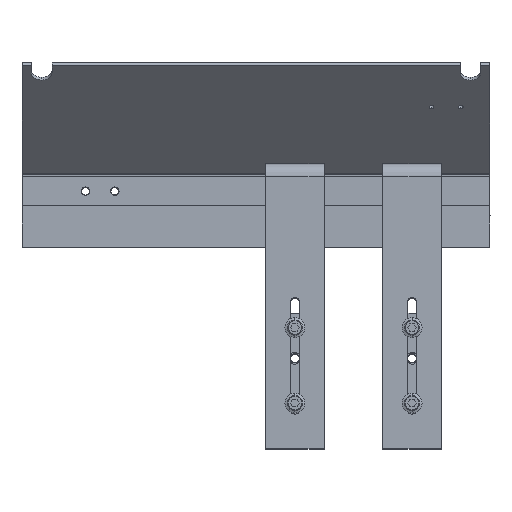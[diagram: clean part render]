
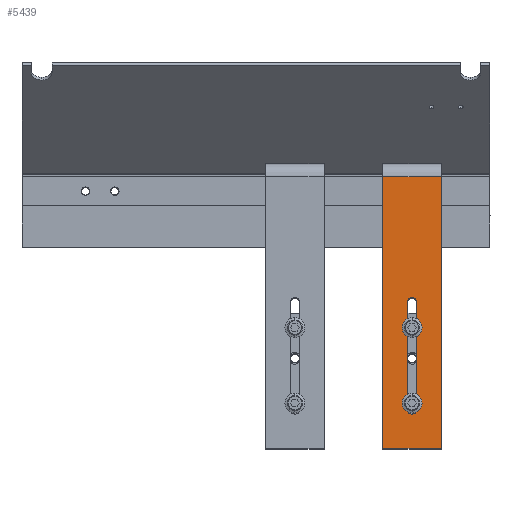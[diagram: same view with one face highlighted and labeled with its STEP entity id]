
A CAD part, top view. The second image highlights one B-rep face of the part: STEP entity #5439.
In plain terms, the highlighted planar face has unit normal (0, 0, 1).
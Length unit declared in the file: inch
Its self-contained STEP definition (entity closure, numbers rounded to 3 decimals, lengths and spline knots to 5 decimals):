
#204 = DIRECTION ( 'NONE',  ( 1., 0., 0. ) ) ;
#275 = AXIS2_PLACEMENT_3D ( 'NONE', #755, #3397, #3487 ) ;
#315 = CARTESIAN_POINT ( 'NONE',  ( 0.75, -3.651, 1.402 ) ) ;
#353 = ORIENTED_EDGE ( 'NONE', *, *, #6400, .T. ) ;
#507 = ORIENTED_EDGE ( 'NONE', *, *, #1146, .T. ) ;
#592 = VECTOR ( 'NONE', #3039, 39.37008 ) ;
#601 = CARTESIAN_POINT ( 'NONE',  ( 0.125, 0.091, 1.402 ) ) ;
#755 = CARTESIAN_POINT ( 'NONE',  ( 0., -2.651, 1.402 ) ) ;
#779 = ORIENTED_EDGE ( 'NONE', *, *, #5688, .T. ) ;
#785 = CARTESIAN_POINT ( 'NONE',  ( 0.75, -3.651, 1.402 ) ) ;
#829 = ORIENTED_EDGE ( 'NONE', *, *, #4669, .T. ) ;
#921 = DIRECTION ( 'NONE',  ( -1., 0., 0. ) ) ;
#1029 = VECTOR ( 'NONE', #4605, 39.37008 ) ;
#1146 = EDGE_CURVE ( 'NONE', #2212, #7460, #7964, .T. ) ;
#1463 = DIRECTION ( 'NONE',  ( -1., 0., 0. ) ) ;
#1506 = VECTOR ( 'NONE', #921, 39.37008 ) ;
#1724 = LINE ( 'NONE', #2355, #1506 ) ;
#1748 = CARTESIAN_POINT ( 'NONE',  ( -0.75, 3.311, 1.402 ) ) ;
#1887 = CARTESIAN_POINT ( 'NONE',  ( -0.125, 0.091, 1.402 ) ) ;
#2128 = CIRCLE ( 'NONE', #275, 0.125 ) ;
#2212 = VERTEX_POINT ( 'NONE', #3048 ) ;
#2267 = LINE ( 'NONE', #3066, #3087 ) ;
#2355 = CARTESIAN_POINT ( 'NONE',  ( 0.75, 3.311, 1.402 ) ) ;
#2829 = EDGE_CURVE ( 'NONE', #8301, #2833, #6879, .T. ) ;
#2833 = VERTEX_POINT ( 'NONE', #6213 ) ;
#2900 = DIRECTION ( 'NONE',  ( 0., 1., 0. ) ) ;
#2939 = PLANE ( 'NONE',  #7303 ) ;
#3001 = CARTESIAN_POINT ( 'NONE',  ( 0.75, -3.651, 1.402 ) ) ;
#3039 = DIRECTION ( 'NONE',  ( -1., 0., 0. ) ) ;
#3048 = CARTESIAN_POINT ( 'NONE',  ( -0.125, -2.651, 1.402 ) ) ;
#3066 = CARTESIAN_POINT ( 'NONE',  ( -0.75, -3.651, 1.402 ) ) ;
#3087 = VECTOR ( 'NONE', #2900, 39.37008 ) ;
#3354 = CIRCLE ( 'NONE', #3496, 0.125 ) ;
#3397 = DIRECTION ( 'NONE',  ( 0., 0., -1. ) ) ;
#3487 = DIRECTION ( 'NONE',  ( -1., 0., 0. ) ) ;
#3496 = AXIS2_PLACEMENT_3D ( 'NONE', #5986, #7370, #1463 ) ;
#3824 = CARTESIAN_POINT ( 'NONE',  ( 0.75, -3.651, 1.402 ) ) ;
#4008 = CARTESIAN_POINT ( 'NONE',  ( 0.125, -2.651, 1.402 ) ) ;
#4399 = EDGE_CURVE ( 'NONE', #5548, #7663, #1724, .T. ) ;
#4605 = DIRECTION ( 'NONE',  ( 0., 1., 0. ) ) ;
#4669 = EDGE_CURVE ( 'NONE', #7460, #7037, #3354, .T. ) ;
#4822 = VECTOR ( 'NONE', #5067, 39.37008 ) ;
#5025 = FACE_OUTER_BOUND ( 'NONE', #7209, .T. ) ;
#5067 = DIRECTION ( 'NONE',  ( 0., 1., 0. ) ) ;
#5233 = LINE ( 'NONE', #3824, #4822 ) ;
#5272 = VERTEX_POINT ( 'NONE', #4008 ) ;
#5439 = ADVANCED_FACE ( 'NONE', ( #8244, #5025 ), #2939, .T. ) ;
#5474 = CARTESIAN_POINT ( 'NONE',  ( -0.125, 0.091, 1.402 ) ) ;
#5548 = VERTEX_POINT ( 'NONE', #7668 ) ;
#5688 = EDGE_CURVE ( 'NONE', #8301, #5548, #5233, .T. ) ;
#5797 = EDGE_CURVE ( 'NONE', #7037, #5272, #8013, .T. ) ;
#5880 = ORIENTED_EDGE ( 'NONE', *, *, #2829, .F. ) ;
#5986 = CARTESIAN_POINT ( 'NONE',  ( 0., 0.091, 1.402 ) ) ;
#6152 = CARTESIAN_POINT ( 'NONE',  ( 0.125, 0.091, 1.402 ) ) ;
#6159 = EDGE_LOOP ( 'NONE', ( #829, #6737, #353, #507 ) ) ;
#6213 = CARTESIAN_POINT ( 'NONE',  ( -0.75, -3.651, 1.402 ) ) ;
#6217 = VECTOR ( 'NONE', #7300, 39.37008 ) ;
#6400 = EDGE_CURVE ( 'NONE', #5272, #2212, #2128, .T. ) ;
#6737 = ORIENTED_EDGE ( 'NONE', *, *, #5797, .T. ) ;
#6879 = LINE ( 'NONE', #315, #592 ) ;
#7037 = VERTEX_POINT ( 'NONE', #6152 ) ;
#7209 = EDGE_LOOP ( 'NONE', ( #7595, #5880, #779, #7268 ) ) ;
#7268 = ORIENTED_EDGE ( 'NONE', *, *, #4399, .T. ) ;
#7300 = DIRECTION ( 'NONE',  ( 0., -1., 0. ) ) ;
#7303 = AXIS2_PLACEMENT_3D ( 'NONE', #785, #7534, #204 ) ;
#7370 = DIRECTION ( 'NONE',  ( 0., 0., -1. ) ) ;
#7460 = VERTEX_POINT ( 'NONE', #5474 ) ;
#7534 = DIRECTION ( 'NONE',  ( 0., 0., 1. ) ) ;
#7595 = ORIENTED_EDGE ( 'NONE', *, *, #8728, .F. ) ;
#7663 = VERTEX_POINT ( 'NONE', #1748 ) ;
#7668 = CARTESIAN_POINT ( 'NONE',  ( 0.75, 3.311, 1.402 ) ) ;
#7964 = LINE ( 'NONE', #1887, #1029 ) ;
#8013 = LINE ( 'NONE', #601, #6217 ) ;
#8244 = FACE_BOUND ( 'NONE', #6159, .T. ) ;
#8301 = VERTEX_POINT ( 'NONE', #3001 ) ;
#8728 = EDGE_CURVE ( 'NONE', #2833, #7663, #2267, .T. ) ;
